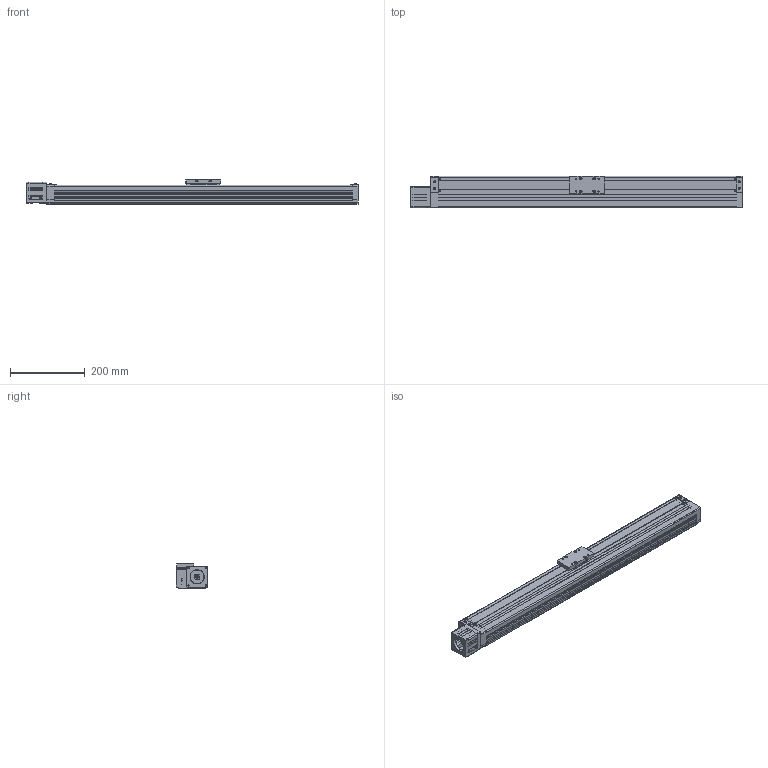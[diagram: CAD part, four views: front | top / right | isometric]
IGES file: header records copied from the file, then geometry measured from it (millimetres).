
Global section: file name: No Iges File Name specified; native system: AutoDesk Inventor R10; preprocessor: AutoDesk Inventor Iges Exporter R10; author: No Author specified; organization: No Organization specified; date: 20110701.172650; units: millimetre
Bounding box: 891 x 85 x 65 mm (x, y, z)
Surface area: 556574.6 mm2 (no closed solid volume)
Topology: 0 solids, 0 shells, 962 faces, 6000 edges, 5980 vertices
Faces by surface type: bspline 962
